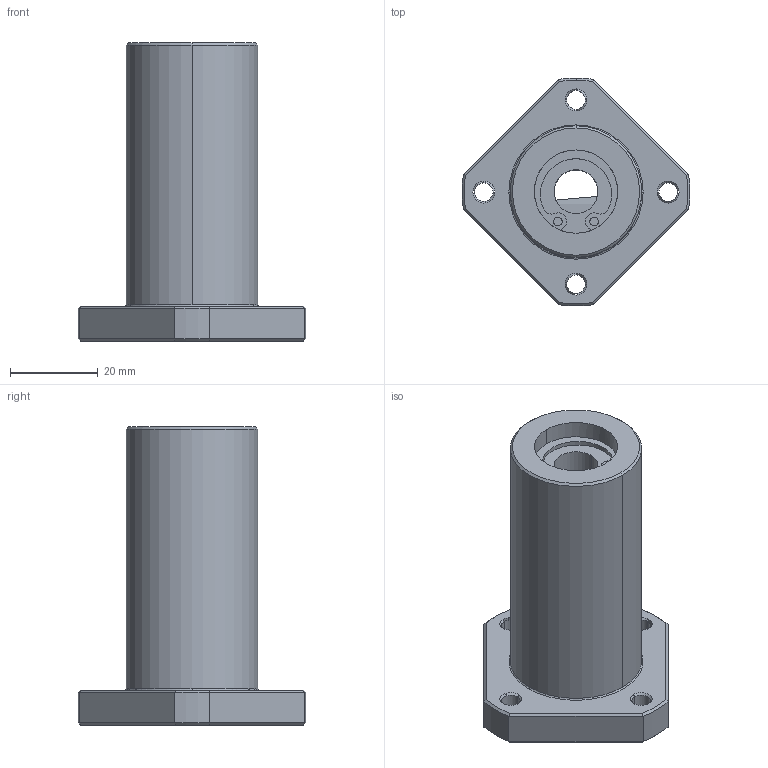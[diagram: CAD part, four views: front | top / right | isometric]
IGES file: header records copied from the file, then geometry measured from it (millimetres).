
Start section: 3D InterOp IGES (Version 21 0 1), Spatial Corp. Copyright (c) 1999-2007.
Global section: file name: LCF-10AVUU.igs; native system: Spatial Corp.; preprocessor: 3D InterOp GENERIC/IGES 3.0; author: Noname; organization: Noname; date: 20220517.163138; units: millimetre
Bounding box: 51.93 x 51.97 x 68 mm (x, y, z)
Surface area: 12758.3 mm2 (no closed solid volume)
Topology: 0 solids, 0 shells, 101 faces, 484 edges, 484 vertices
Faces by surface type: revolution 77, extrusion 24
